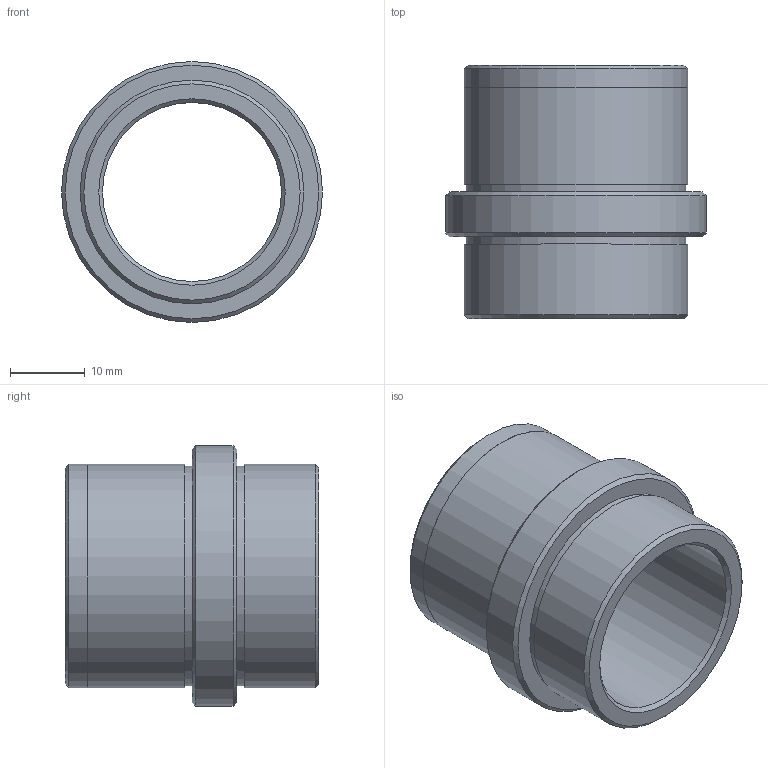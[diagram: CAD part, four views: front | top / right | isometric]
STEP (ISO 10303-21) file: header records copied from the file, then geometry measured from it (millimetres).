
FILE_DESCRIPTION( ( 'STEP AP203' ), '1' );
FILE_NAME( 'D:/Cuma/24 03 2009/D22B/D22B_18X56.step', '2002-12-31T22:12:41', ( ' ' ), ( ' ' ), 'XStep 1.0', ' ', ' ' );
FILE_SCHEMA( ( 'CONFIG_CONTROL_DESIGN' ) );
Length unit declared in the file: metre
Products named in the file (1): 1
Bounding box: 35 x 34 x 35 mm (x, y, z)
Volume: 10061.5 mm3; surface area: 6807.2 mm2
Topology: 1 solids, 1 shells, 20 faces, 33 edges, 20 vertices
Faces by surface type: plane 7, cylinder 7, cone 6
Full cylindrical faces by diameter (mm): 24 x1, 29.5 x2, 29.96 x1, 30 x2, 35 x1
Entity records: 453 total; most frequent: DIRECTION 82, CARTESIAN_POINT 61, AXIS2_PLACEMENT_3D 41, EDGE_LOOP 40, ORIENTED_EDGE 40, FACE_OUTER_BOUND 27, ADVANCED_FACE 20, EDGE_CURVE 20
